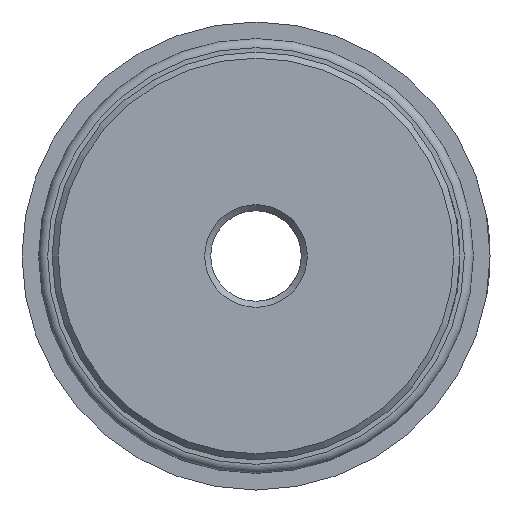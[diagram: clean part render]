
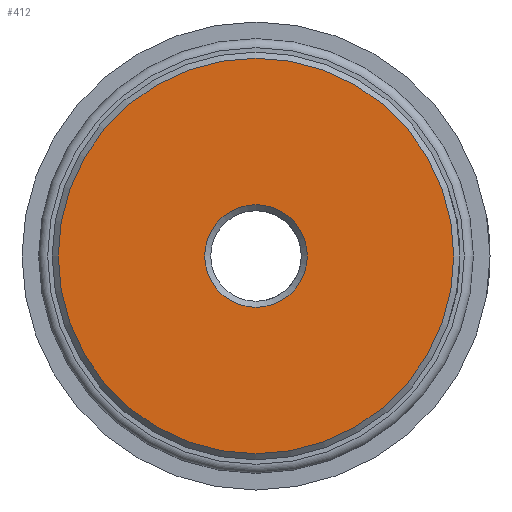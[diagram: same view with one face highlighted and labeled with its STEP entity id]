
A CAD part, left-side view. The second image highlights one B-rep face of the part: STEP entity #412.
In plain terms, the highlighted planar face has unit normal (-1, 0, 0).
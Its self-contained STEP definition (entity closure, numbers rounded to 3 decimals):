
#412 = ADVANCED_FACE( 'NONE', ( #892, #893 ), #894, .F. );
#892 = FACE_OUTER_BOUND( '', #1505, .T. );
#893 = FACE_BOUND( '', #1506, .T. );
#894 = PLANE( '', #1507 );
#1505 = EDGE_LOOP( '', ( #2304 ) );
#1506 = EDGE_LOOP( '', ( #2305 ) );
#1507 = AXIS2_PLACEMENT_3D( '', #2306, #2307, #2308 );
#2304 = ORIENTED_EDGE( '', *, *, #3341, .T. );
#2305 = ORIENTED_EDGE( '', *, *, #3342, .T. );
#2306 = CARTESIAN_POINT( '', ( 0., 1.5, 0. ) );
#2307 = DIRECTION( '', ( 1., 0., 0. ) );
#2308 = DIRECTION( '', ( 0., 1., 0. ) );
#3341 = EDGE_CURVE( 'NONE', #3929, #3929, #3930, .F. );
#3342 = EDGE_CURVE( 'NONE', #3931, #3931, #3932, .T. );
#3929 = VERTEX_POINT( '', #4731 );
#3930 = CIRCLE( '', #4732, 6.55 );
#3931 = VERTEX_POINT( '', #4733 );
#3932 = CIRCLE( '', #4734, 1.7 );
#4731 = CARTESIAN_POINT( '', ( 0., 0., -6.55 ) );
#4732 = AXIS2_PLACEMENT_3D( '', #5459, #5460, #5461 );
#4733 = CARTESIAN_POINT( '', ( 0., 0., -1.7 ) );
#4734 = AXIS2_PLACEMENT_3D( '', #5462, #5463, #5464 );
#5459 = CARTESIAN_POINT( '', ( 0., 0., 0. ) );
#5460 = DIRECTION( '', ( 1., 0., 0. ) );
#5461 = DIRECTION( '', ( 0., 0., -1. ) );
#5462 = CARTESIAN_POINT( '', ( 0., 0., 0. ) );
#5463 = DIRECTION( '', ( 1., 0., 0. ) );
#5464 = DIRECTION( '', ( 0., 0., -1. ) );
